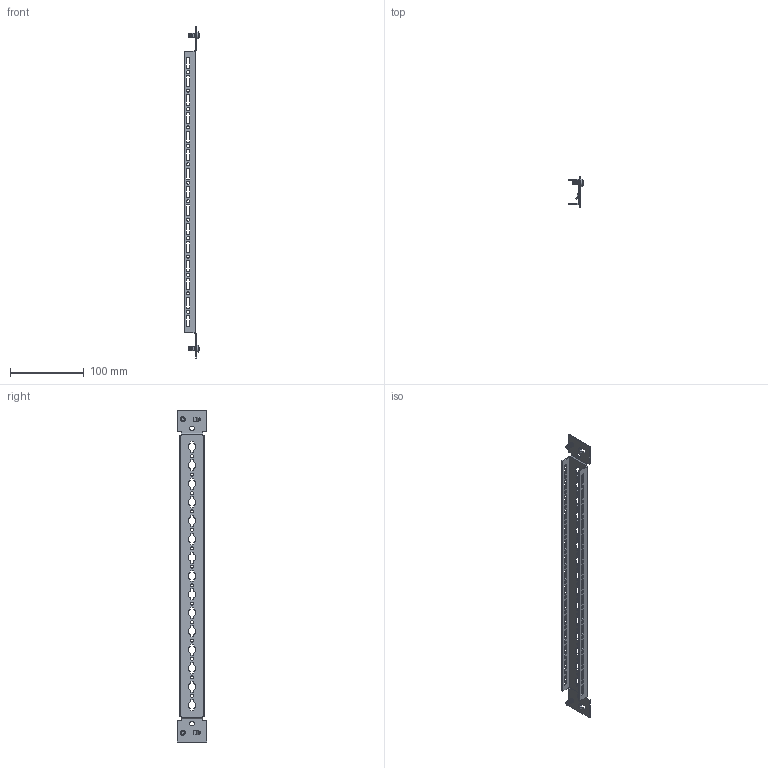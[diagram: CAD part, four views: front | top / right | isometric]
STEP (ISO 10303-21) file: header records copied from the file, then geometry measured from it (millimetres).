
FILE_DESCRIPTION(('Open CASCADE Model'),'2;1');
FILE_NAME('Open CASCADE Shape Model','2025-02-21T13:29:30',('Author'),( 'Open CASCADE'),'Open CASCADE STEP processor 7.8','Open CASCADE 7.8' ,'Unknown');
FILE_SCHEMA(('AUTOMOTIVE_DESIGN { 1 0 10303 214 1 1 1 1 }'));
Length unit declared in the file: millimetre
Products named in the file (3): Compound1; Solid1; Solid2
Assembly tree (3 placements, depth 2):
  Compound1
    Solid1
    Solid2  x2
Bounding box: 20.36 x 40 x 450.04 mm (x, y, z)
Volume: 33204.6 mm3; surface area: 49594 mm2
Topology: 3 solids, 3 shells, 626 faces, 1760 edges, 1142 vertices
Faces by surface type: plane 332, cylinder 230, cone 56, torus 4, sphere 2, bspline 2
Full cylindrical faces by diameter (mm): 4.2 x42, 5 x28, 6.5 x4, 9.5 x2
Entity records: 19460 total; most frequent: CARTESIAN_POINT 3769, ORIENTED_EDGE 3302, DIRECTION 3170, EDGE_CURVE 1651, VERTEX_POINT 1086, LINE 1080, VECTOR 1080, AXIS2_PLACEMENT_3D 1045
